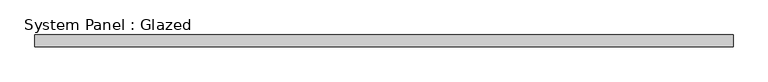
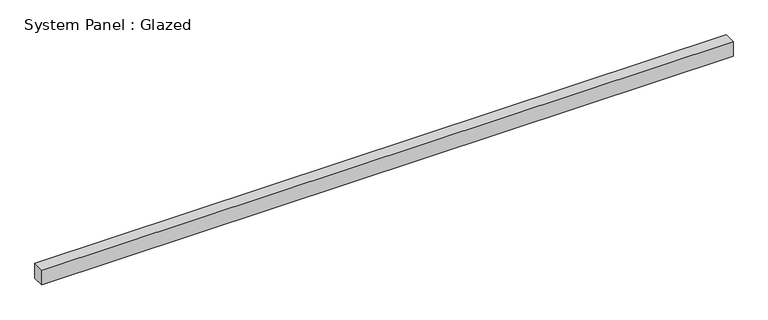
"""IFC4 building model written with IfcOpenShell, lengths in millimetres: plate geometry, System Panel : Glazed."""

from ifc_helpers import new_model, si_unit, origin, origin_with_axes, place, context, project, spatial, polyline, outline, extrude, source, transform, mapped, element, save


def system_panel_glazed_a4b64557(model_context):
    return source(origin(), model_context, "Body", "SweptSolid", [
        extrude(outline(polyline([(736.9999999, -49.5), (-736.9999999, -49.5), (-736.9999999, -24.5), (736.9999999, -24.5), (736.9999999, -49.5)])), origin_with_axes(), (0.0, 0.0, 1.0), 33.25),
    ])


if __name__ == "__main__":
    model = new_model("IFC4")
    model_context = context("Model", 3, world=origin())
    ifc_project = project(units=[si_unit("LENGTHUNIT", "METRE", prefix="MILLI")], contexts=[model_context])
    site = spatial("IfcSite", under=ifc_project)
    building = spatial("IfcBuilding", under=site)
    placement = place(None, origin())
    system_panel_glazed_shape = system_panel_glazed_a4b64557(model_context)
    element("IfcPlate", 1, ObjectType="System Panel : Glazed", at=placement, inside=building, context=model_context, shape_type="MappedRepresentation", body=[
        mapped(system_panel_glazed_shape, transform((0.0, 0.0, 0.0), x_axis=(1.0, 0.0, 0.0), y_axis=(0.0, 1.0, 0.0), z_axis=(0.0, 0.0, 1.0))),
    ])
    save(model, "model.ifc")
